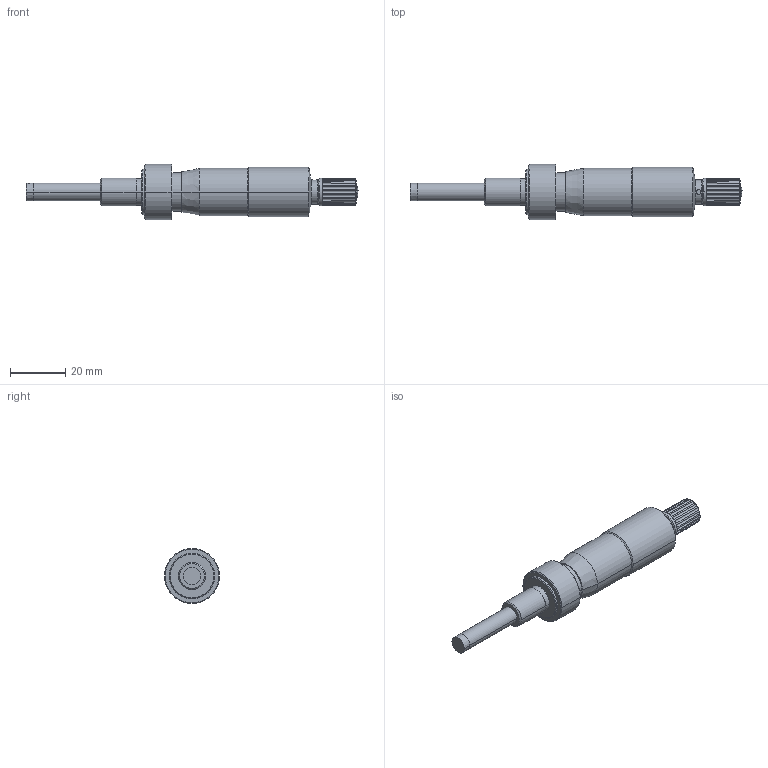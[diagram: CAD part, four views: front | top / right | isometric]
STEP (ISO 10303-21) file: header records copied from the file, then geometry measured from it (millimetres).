
FILE_DESCRIPTION(('Creo Elements/Direct Modeling STEP Export'),'2;1');
FILE_NAME('150-209_MHN1-25L.stp','2014-02-06T19:02:32',(''),(''),'Creo Elements/Direct Modeling STEP processor for AP214 (Solid Model)','Creo Elements/Direct Modeling 18.1B 29-Sep-2012 (C) Parametric Technology GmbH','');
FILE_SCHEMA(('AUTOMOTIVE_DESIGN { 1 0 10303 214 1 1 1 1 }'));
Length unit declared in the file: millimetre
Products named in the file (1): 150-209_MHN1-25L
Bounding box: 120.55 x 20 x 20 mm (x, y, z)
Volume: 18159.9 mm3; surface area: 5775.2 mm2
Topology: 1 solids, 1 shells, 119 faces, 295 edges, 188 vertices
Faces by surface type: cylinder 48, plane 45, cone 24, sphere 2
Entity records: 4237 total; most frequent: CARTESIAN_POINT 1494, ORIENTED_EDGE 590, DIRECTION 528, EDGE_CURVE 295, AXIS2_PLACEMENT_3D 226, VERTEX_POINT 188, EDGE_LOOP 129, FACE_OUTER_BOUND 119
